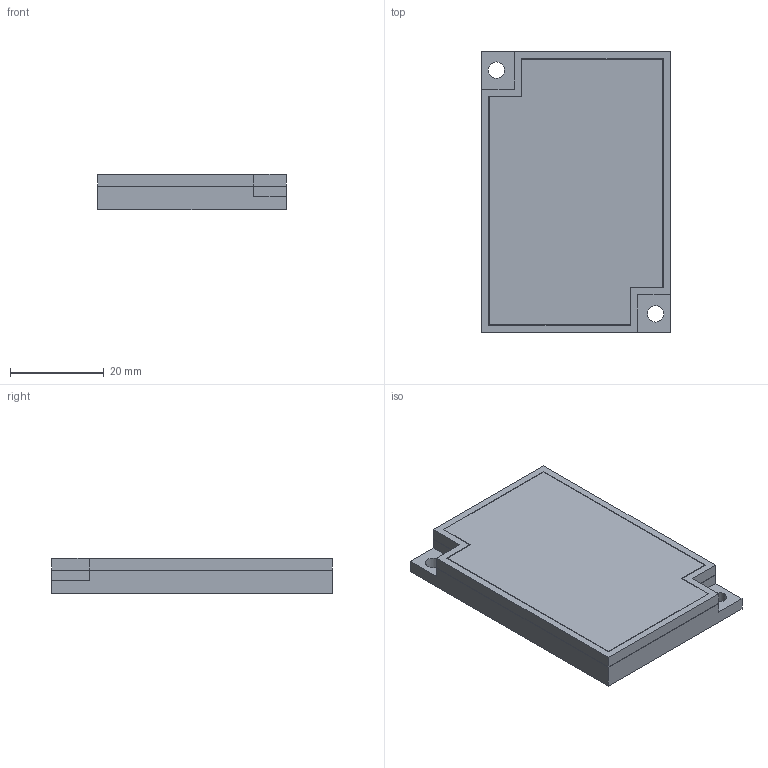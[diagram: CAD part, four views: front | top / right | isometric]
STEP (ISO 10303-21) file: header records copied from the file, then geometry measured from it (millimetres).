
FILE_DESCRIPTION (( 'STEP AP203' ), '1' );
FILE_NAME ('E39_R1.step', '2013-07-18T11:49:12', ( 'OSMC1.0 TAKUMI' ), ( 'TAKUMI-Engniaring' ), 'SwSTEP 2.0', 'SolidWorks 2002025', '' );
FILE_SCHEMA (( 'CONFIG_CONTROL_DESIGN' ));
Length unit declared in the file: millimetre
Products named in the file (1): E39_R1
Bounding box: 40.3 x 59.9 x 7.5 mm (x, y, z)
Volume: 17476.8 mm3; surface area: 7119.8 mm2
Topology: 1 solids, 1 shells, 52 faces, 138 edges, 92 vertices
Faces by surface type: plane 48, cylinder 4
Entity records: 1675 total; most frequent: CARTESIAN_POINT 283, ORIENTED_EDGE 276, DIRECTION 252, EDGE_CURVE 138, LINE 130, VECTOR 130, VERTEX_POINT 92, AXIS2_PLACEMENT_3D 61
